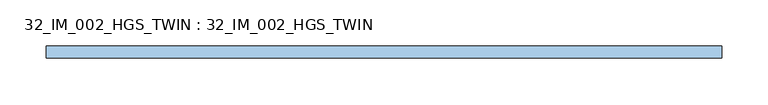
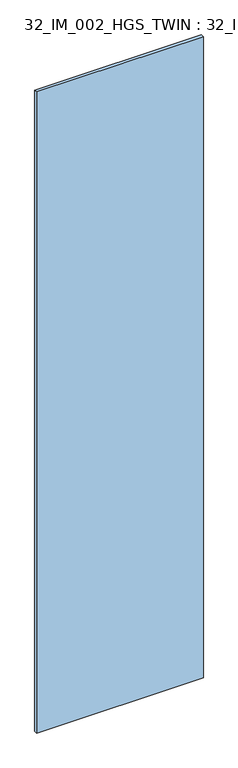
"""IFC4 building model written with IfcOpenShell, lengths in millimetres: window geometry, 32_IM_002_HGS_TWIN : 32_IM_002_HGS_TWIN."""

from ifc_helpers import new_model, si_unit, origin, origin_with_axes, place, context, project, spatial, polyline, outline, extrude, source, transform, mapped, element, save


def window_32_im_002_hgs_twin_32_im_002_hgs_twin_ac9f17fd(model_context):
    return source(origin(), model_context, "Body", "SweptSolid", [
        extrude(outline(polyline([(364.0, -6.4), (-364.0, -6.4), (-364.0, 6.4), (364.0, 6.4), (364.0, -6.4)])), origin_with_axes(), (0.0, 0.0, 1.0), 2956.0),
    ])


if __name__ == "__main__":
    model = new_model("IFC4")
    model_context = context("Model", 3, world=origin())
    ifc_project = project(units=[si_unit("LENGTHUNIT", "METRE", prefix="MILLI")], contexts=[model_context])
    site = spatial("IfcSite", under=ifc_project)
    building = spatial("IfcBuilding", under=site)
    placement = place(None, origin())
    window_32_im_002_hgs_twin_32_im_002_hgs_twin_shape = window_32_im_002_hgs_twin_32_im_002_hgs_twin_ac9f17fd(model_context)
    element("IfcWindow", 1, ObjectType="32_IM_002_HGS_TWIN : 32_IM_002_HGS_TWIN", at=placement, inside=building, context=model_context, shape_type="MappedRepresentation", body=[
        mapped(window_32_im_002_hgs_twin_32_im_002_hgs_twin_shape, transform((0.0, 0.0, 0.0), x_axis=(1.0, 0.0, 0.0), y_axis=(0.0, 1.0, 0.0), z_axis=(0.0, 0.0, 1.0))),
    ])
    save(model, "model.ifc")
